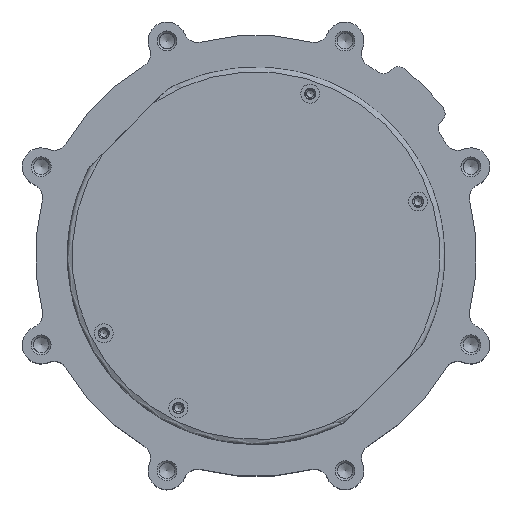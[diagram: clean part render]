
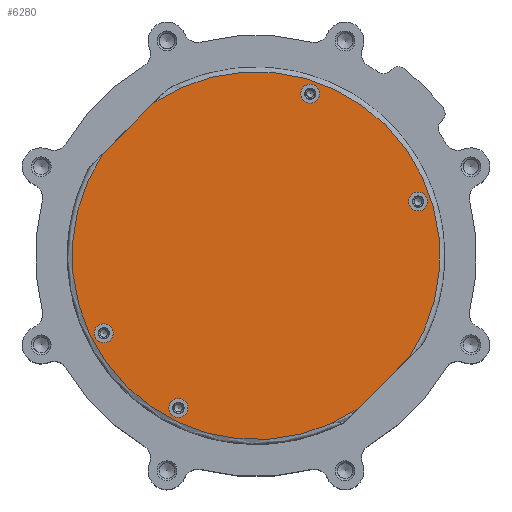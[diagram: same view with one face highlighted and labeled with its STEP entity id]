
A CAD part, top view. The second image highlights one B-rep face of the part: STEP entity #6280.
In plain terms, the highlighted planar face has unit normal (0, 0, 1).
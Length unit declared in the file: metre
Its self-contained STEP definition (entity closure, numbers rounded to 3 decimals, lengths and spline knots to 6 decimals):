
#397=LINE('',#10064,#767);
#419=LINE('',#10128,#789);
#767=VECTOR('',#7870,1.);
#789=VECTOR('',#7916,1.);
#1438=ORIENTED_EDGE('',*,*,#2882,.F.);
#1439=ORIENTED_EDGE('',*,*,#2923,.F.);
#1440=ORIENTED_EDGE('',*,*,#2938,.F.);
#1441=ORIENTED_EDGE('',*,*,#2848,.F.);
#1442=ORIENTED_EDGE('',*,*,#3004,.T.);
#1443=ORIENTED_EDGE('',*,*,#2841,.F.);
#1444=ORIENTED_EDGE('',*,*,#2979,.T.);
#1445=ORIENTED_EDGE('',*,*,#3025,.F.);
#2841=EDGE_CURVE('',#3725,#3726,#4376,.T.);
#2848=EDGE_CURVE('',#3732,#3732,#4378,.T.);
#2882=EDGE_CURVE('',#3758,#3758,#4392,.T.);
#2923=EDGE_CURVE('',#3784,#3784,#4404,.T.);
#2938=EDGE_CURVE('',#3796,#3796,#4415,.T.);
#2979=EDGE_CURVE('',#3725,#3822,#397,.T.);
#3004=EDGE_CURVE('',#3835,#3726,#419,.T.);
#3025=EDGE_CURVE('',#3835,#3822,#4445,.T.);
#3725=VERTEX_POINT('',#9764);
#3726=VERTEX_POINT('',#9766);
#3732=VERTEX_POINT('',#9789);
#3758=VERTEX_POINT('',#9862);
#3784=VERTEX_POINT('',#9947);
#3796=VERTEX_POINT('',#9981);
#3822=VERTEX_POINT('',#10065);
#3835=VERTEX_POINT('',#10129);
#4376=CIRCLE('',#6635,0.03875);
#4378=CIRCLE('',#6639,0.002);
#4392=CIRCLE('',#6666,0.002);
#4404=CIRCLE('',#6696,0.002);
#4415=CIRCLE('',#6714,0.002);
#4445=CIRCLE('',#6776,0.03875);
#4958=EDGE_LOOP('',(#1438));
#4959=EDGE_LOOP('',(#1439));
#4960=EDGE_LOOP('',(#1440));
#4961=EDGE_LOOP('',(#1441));
#4962=EDGE_LOOP('',(#1442,#1443,#1444,#1445));
#5545=FACE_BOUND('',#4958,.T.);
#5546=FACE_BOUND('',#4959,.T.);
#5547=FACE_BOUND('',#4960,.T.);
#5548=FACE_BOUND('',#4961,.T.);
#5549=FACE_BOUND('',#4962,.T.);
#6109=PLANE('',#6777);
#6280=ADVANCED_FACE('',(#5545,#5546,#5547,#5548,#5549),#6109,.F.);
#6635=AXIS2_PLACEMENT_3D('',#9765,#7565,#7566);
#6639=AXIS2_PLACEMENT_3D('',#9788,#7577,#7578);
#6666=AXIS2_PLACEMENT_3D('',#9861,#7651,#7652);
#6696=AXIS2_PLACEMENT_3D('',#9946,#7740,#7741);
#6714=AXIS2_PLACEMENT_3D('',#9980,#7780,#7781);
#6776=AXIS2_PLACEMENT_3D('',#10189,#7957,#7958);
#6777=AXIS2_PLACEMENT_3D('',#10190,#7959,#7960);
#7565=DIRECTION('',(0.,0.,-1.));
#7566=DIRECTION('',(-0.707,0.707,0.));
#7577=DIRECTION('',(0.,0.,1.));
#7578=DIRECTION('',(-0.707,-0.707,0.));
#7651=DIRECTION('',(0.,0.,1.));
#7652=DIRECTION('',(-0.707,-0.707,0.));
#7740=DIRECTION('',(0.,0.,1.));
#7741=DIRECTION('',(-0.707,-0.707,0.));
#7780=DIRECTION('',(0.,0.,1.));
#7781=DIRECTION('',(-0.707,-0.707,0.));
#7870=DIRECTION('',(0.707,0.707,0.));
#7916=DIRECTION('',(-0.707,-0.707,0.));
#7957=DIRECTION('',(0.,0.,-1.));
#7958=DIRECTION('',(-0.555,0.832,0.));
#7959=DIRECTION('',(0.,0.,-1.));
#7960=DIRECTION('',(0.707,0.707,0.));
#9764=CARTESIAN_POINT('',(0.147505,-0.036235,-0.1794));
#9765=CARTESIAN_POINT('',(0.126,-0.004,-0.1794));
#9766=CARTESIAN_POINT('',(0.093765,0.017505,-0.1794));
#9788=CARTESIAN_POINT('',(0.109656,-0.036076,-0.1794));
#9789=CARTESIAN_POINT('',(0.108242,-0.03749,-0.1794));
#9861=CARTESIAN_POINT('',(0.093924,-0.020344,-0.1794));
#9862=CARTESIAN_POINT('',(0.09251,-0.021758,-0.1794));
#9946=CARTESIAN_POINT('',(0.16014,0.007423,-0.1794));
#9947=CARTESIAN_POINT('',(0.158725,0.006009,-0.1794));
#9980=CARTESIAN_POINT('',(0.137423,0.03014,-0.1794));
#9981=CARTESIAN_POINT('',(0.136009,0.028725,-0.1794));
#10064=CARTESIAN_POINT('',(0.147505,-0.036235,-0.1794));
#10065=CARTESIAN_POINT('',(0.158235,-0.025505,-0.1794));
#10128=CARTESIAN_POINT('',(0.104495,0.028235,-0.1794));
#10129=CARTESIAN_POINT('',(0.104495,0.028235,-0.1794));
#10189=CARTESIAN_POINT('',(0.126,-0.004,-0.1794));
#10190=CARTESIAN_POINT('',(0.126,-0.004,-0.1794));
